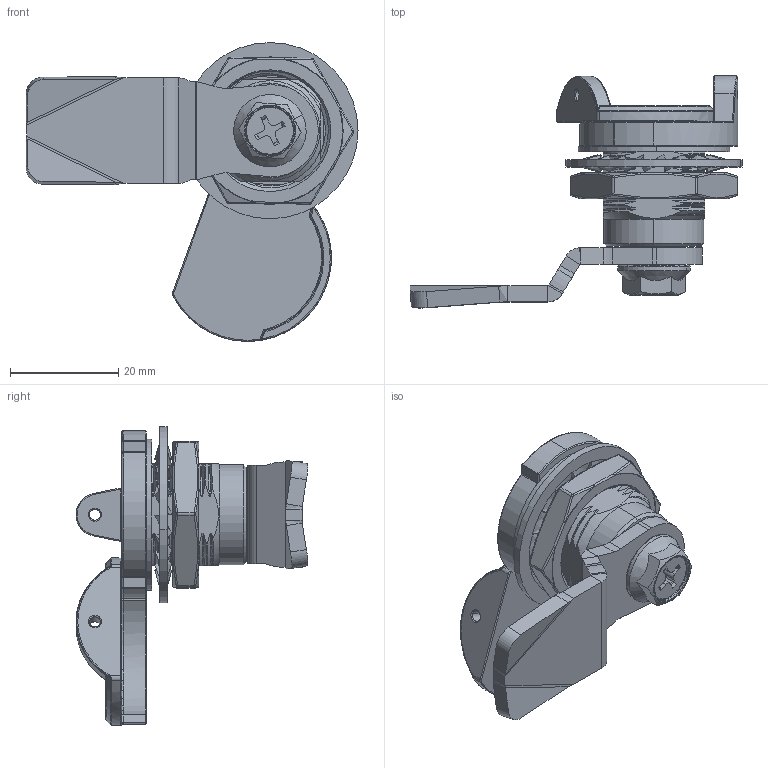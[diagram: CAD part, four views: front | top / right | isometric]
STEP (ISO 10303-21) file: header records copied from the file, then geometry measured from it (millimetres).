
FILE_DESCRIPTION (( 'STEP AP214' ), '1' );
FILE_NAME ('CUYUE D1-1412-037.STEP', '2026-06-17T07:44:05', ( '' ), ( '' ), 'SwSTEP 2.0', 'SolidWorks 2020', '' );
FILE_SCHEMA (( 'AUTOMOTIVE_DESIGN' ));
Length unit declared in the file: millimetre
Products named in the file (15): _model2.sldasm-Part-1; _model2.sldasm-Part-12; _model2.sldasm-Part-9; _model2.sldasm-Part-11; CUYUE D1-1412-037; _model2.sldasm-Part-14; _model2.sldasm-Part-13; _model2.sldasm-Part-10; _model2.sldasm-Part-4; _model2.sldasm-Part-5; _model2.sldasm-Part-2; _model2.sldasm-Part-6; _model2.sldasm-Part-3; _model2.sldasm-Part-7; _model2.sldasm-Part-8
Assembly tree (13 placements, depth 2):
  CUYUE D1-1412-037
    _model2.sldasm-Part-1
    _model2.sldasm-Part-2
    _model2.sldasm-Part-3
    _model2.sldasm-Part-4
    _model2.sldasm-Part-5
    _model2.sldasm-Part-6
    _model2.sldasm-Part-8
    _model2.sldasm-Part-9
    _model2.sldasm-Part-10
    _model2.sldasm-Part-11
    _model2.sldasm-Part-12
    _model2.sldasm-Part-13
    _model2.sldasm-Part-14
  _model2.sldasm-Part-7
Bounding box: 61.4 x 42.91 x 55.26 mm (x, y, z)
Volume: 15846.2 mm3; surface area: 15460.1 mm2
Topology: 13 solids, 13 shells, 934 faces, 2367 edges, 1466 vertices
Faces by surface type: cylinder 290, bspline 284, plane 234, cone 60, torus 60, sphere 6
Entity records: 86278 total; most frequent: CARTESIAN_POINT 66108, ORIENTED_EDGE 4702, DIRECTION 3341, EDGE_CURVE 2351, VERTEX_POINT 1464, AXIS2_PLACEMENT_3D 1283, EDGE_LOOP 977, ADVANCED_FACE 934
